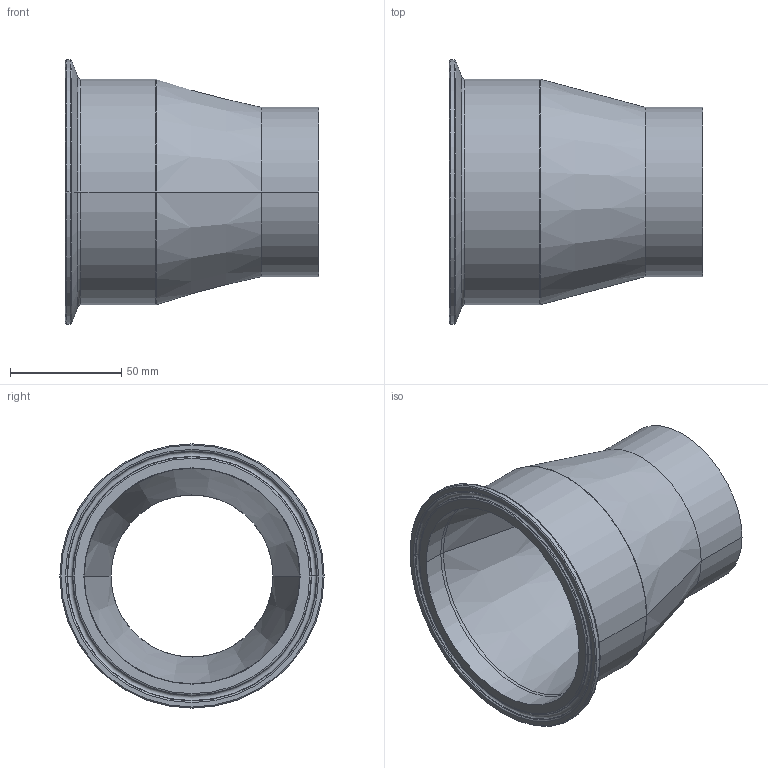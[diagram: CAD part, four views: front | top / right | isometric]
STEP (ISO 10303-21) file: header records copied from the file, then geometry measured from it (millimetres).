
FILE_DESCRIPTION (( 'STEP AP214' ), '1' );
FILE_NAME ('TE31SCW6L4.0x3.0-...STEP', '2016-05-29T12:08:36', ( 'eran' ), ( '' ), 'SwSTEP 2.0', 'SolidWorks 2016', '' );
FILE_SCHEMA (( 'AUTOMOTIVE_DESIGN' ));
Length unit declared in the file: millimetre
Products named in the file (1): TE31SCW6L4.0x3.0-..
Bounding box: 114.3 x 119 x 119 mm (x, y, z)
Volume: 165801.7 mm3; surface area: 69018.2 mm2
Topology: 1 solids, 1 shells, 41 faces, 82 edges, 44 vertices
Faces by surface type: torus 16, cone 12, cylinder 10, plane 3
Entity records: 1098 total; most frequent: DIRECTION 226, CARTESIAN_POINT 168, ORIENTED_EDGE 164, AXIS2_PLACEMENT_3D 102, EDGE_CURVE 82, CIRCLE 60, VERTEX_POINT 44, EDGE_LOOP 44
